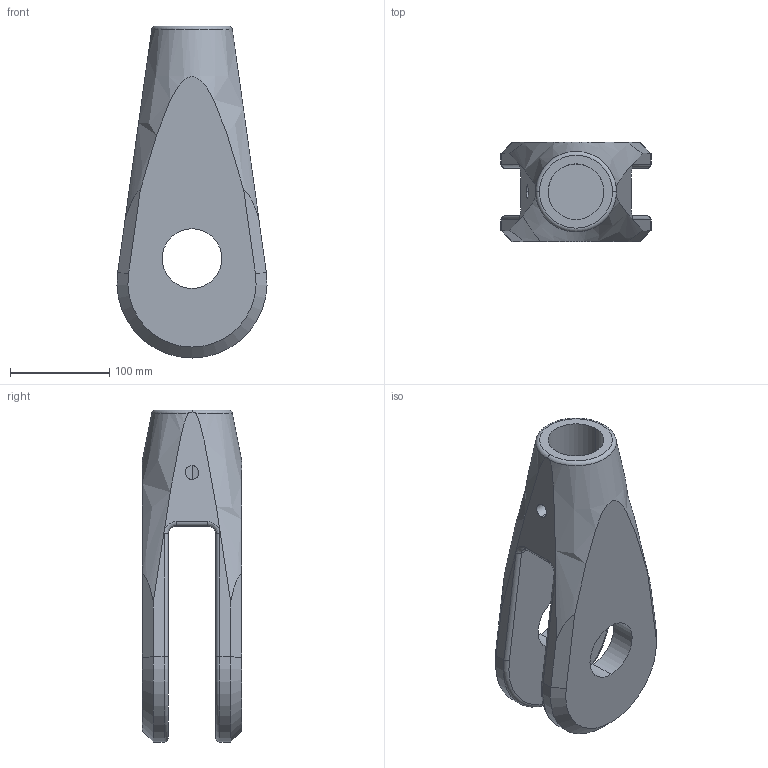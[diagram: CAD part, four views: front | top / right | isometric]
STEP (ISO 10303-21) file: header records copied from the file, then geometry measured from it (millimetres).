
FILE_DESCRIPTION (( 'STEP AP203' ), '1' );
FILE_NAME ('Gabelkopf M56.STEP', '2018-02-20T06:39:09', ( 'install' ), ( 'Hewlett-Packard Company' ), 'SwSTEP 2.0', 'SolidWorks 2017', '' );
FILE_SCHEMA (( 'CONFIG_CONTROL_DESIGN' ));
Length unit declared in the file: millimetre
Products named in the file (1): Gabelkopf M56
Bounding box: 150.92 x 99.8 x 334 mm (x, y, z)
Volume: 1865613.2 mm3; surface area: 194503.7 mm2
Topology: 1 solids, 1 shells, 47 faces, 115 edges, 70 vertices
Faces by surface type: cylinder 20, plane 13, cone 5, torus 5, bspline 4
Entity records: 2010 total; most frequent: CARTESIAN_POINT 858, ORIENTED_EDGE 230, DIRECTION 222, EDGE_CURVE 115, AXIS2_PLACEMENT_3D 89, VERTEX_POINT 70, EDGE_LOOP 53, FACE_OUTER_BOUND 47
